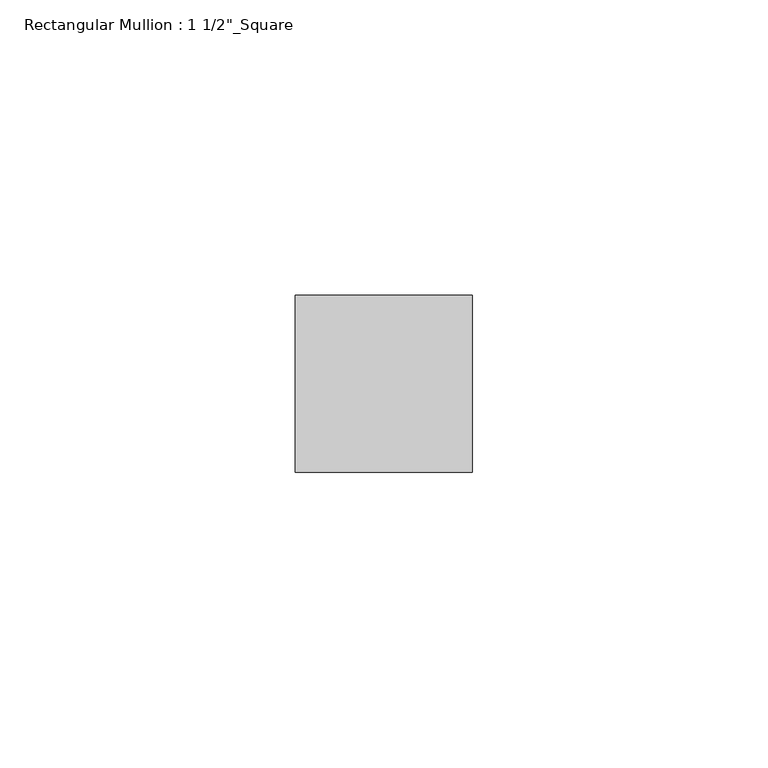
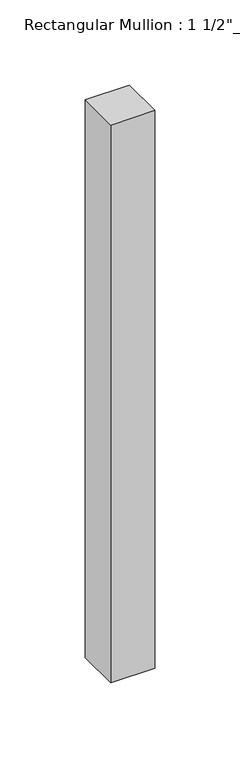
"""IFC4 building model written with IfcOpenShell, lengths in millimetres: member geometry."""

from ifc_helpers import new_model, si_unit, frame, origin, place, context, project, spatial, polyline, outline, extrude, source, transform, mapped, element, save


def member_e4ace078(model_context):
    return source(origin(), model_context, "Body", "SweptSolid", [
        extrude(outline(polyline([(15.0, 27.5), (15.0, -2.5), (-15.0, -2.5), (-15.0, 27.5), (15.0, 27.5)])), frame((0.0, 0.0, -400.0), z_axis=(0.0, 0.0, 1.0), x_axis=(1.0, 0.0, 0.0)), (0.0, 0.0, 1.0), 400.0),
    ])


if __name__ == "__main__":
    model = new_model("IFC4")
    model_context = context("Model", 3, world=origin())
    ifc_project = project(units=[si_unit("LENGTHUNIT", "METRE", prefix="MILLI")], contexts=[model_context])
    site = spatial("IfcSite", under=ifc_project)
    building = spatial("IfcBuilding", under=site)
    placement = place(None, origin())
    member_shape = member_e4ace078(model_context)
    element("IfcMember", 1, ObjectType="Rectangular Mullion : 1 1/2\"_Square", at=placement, inside=building, context=model_context, shape_type="MappedRepresentation", body=[
        mapped(member_shape, transform((0.0, 0.0, 0.0), x_axis=(1.0, 0.0, 0.0), y_axis=(0.0, 1.0, 0.0), z_axis=(0.0, 0.0, 1.0))),
    ])
    save(model, "model.ifc")
